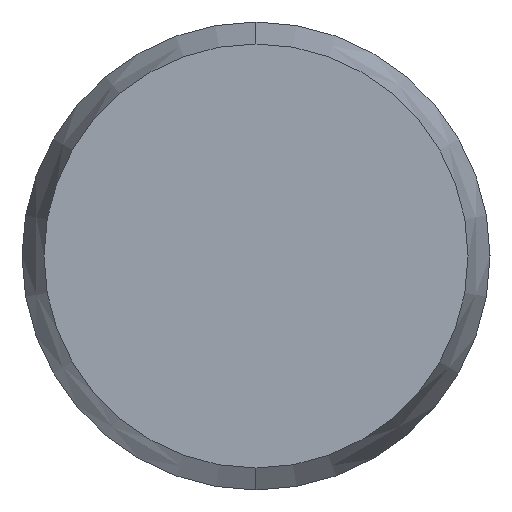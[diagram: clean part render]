
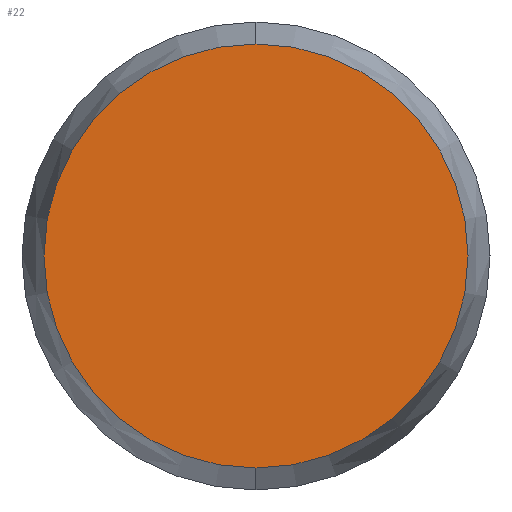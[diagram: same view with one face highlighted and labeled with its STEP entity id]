
A CAD part, left-side view. The second image highlights one B-rep face of the part: STEP entity #22.
In plain terms, the highlighted planar face has unit normal (-1, 0, 0).
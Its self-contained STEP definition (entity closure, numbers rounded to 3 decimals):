
#19 = EDGE_CURVE ( 'NONE', #43, #42, #178, .T. ) ;
#22 = ADVANCED_FACE ( 'NONE', ( #179 ), #177, .F. ) ;
#23 = EDGE_LOOP ( 'NONE', ( #24, #65 ) ) ;
#24 = ORIENTED_EDGE ( 'NONE', *, *, #41, .F. ) ;
#41 = EDGE_CURVE ( 'NONE', #42, #43, #273, .T. ) ;
#42 = VERTEX_POINT ( 'NONE', #267 ) ;
#43 = VERTEX_POINT ( 'NONE', #266 ) ;
#65 = ORIENTED_EDGE ( 'NONE', *, *, #19, .F. ) ;
#169 = DIRECTION ( 'NONE',  ( 0., 0., -1. ) ) ;
#170 = DIRECTION ( 'NONE',  ( 1., 0., 0. ) ) ;
#171 = CARTESIAN_POINT ( 'NONE',  ( -14., 0., 0. ) ) ;
#177 = PLANE ( 'NONE',  #183 ) ;
#178 = CIRCLE ( 'NONE', #180, 1.812 ) ;
#179 = FACE_OUTER_BOUND ( 'NONE', #23, .T. ) ;
#180 = AXIS2_PLACEMENT_3D ( 'NONE', #200, #182, #181 ) ;
#181 = DIRECTION ( 'NONE',  ( 0., 0., -1. ) ) ;
#182 = DIRECTION ( 'NONE',  ( 1., 0., 0. ) ) ;
#183 = AXIS2_PLACEMENT_3D ( 'NONE', #171, #170, #169 ) ;
#200 = CARTESIAN_POINT ( 'NONE',  ( -14., 0., 0. ) ) ;
#266 = CARTESIAN_POINT ( 'NONE',  ( -14., 0., -1.812 ) ) ;
#267 = CARTESIAN_POINT ( 'NONE',  ( -14., 0., 1.812 ) ) ;
#268 = DIRECTION ( 'NONE',  ( 0., 0., -1. ) ) ;
#269 = DIRECTION ( 'NONE',  ( 1., 0., 0. ) ) ;
#270 = CARTESIAN_POINT ( 'NONE',  ( -14., 0., 0. ) ) ;
#271 = AXIS2_PLACEMENT_3D ( 'NONE', #270, #269, #268 ) ;
#273 = CIRCLE ( 'NONE', #271, 1.812 ) ;
